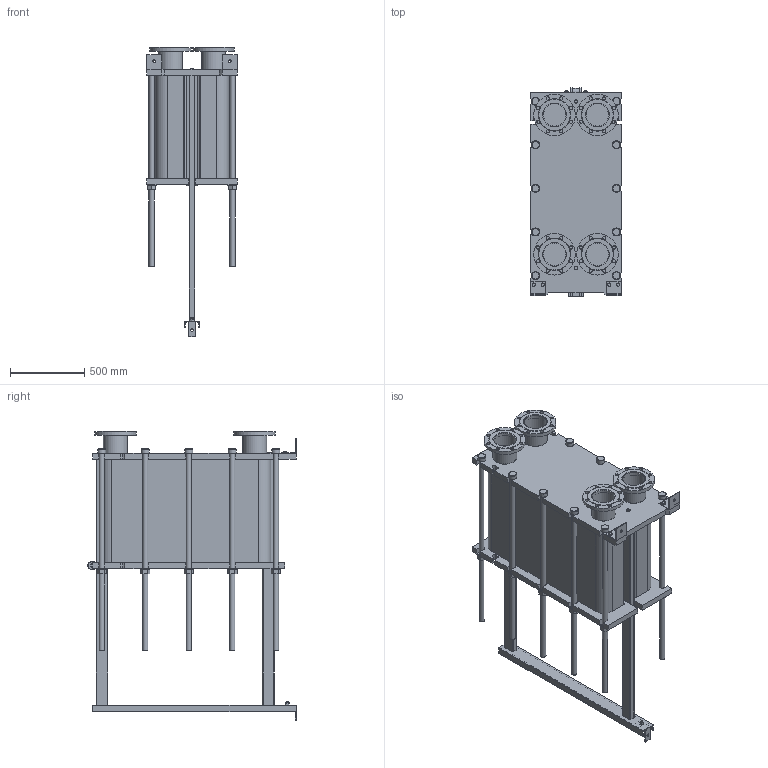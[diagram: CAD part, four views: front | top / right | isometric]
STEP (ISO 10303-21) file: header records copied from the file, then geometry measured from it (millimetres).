
FILE_DESCRIPTION(/* description */ (''),/* implementation_level */ '2;1');
FILE_NAME(/* name */ 'C:\Users\zhuro\Desktop\ENCO\TO\ЭН-041\ЭН-0,5-041-202-1.stp',/* time_stamp */ '2022-06-06T11:06:24+03:00',/* author */ ('zhuro'),/* organization */ (''),/* preprocessor_version */ 'ST-DEVELOPER v18.1',/* originating_system */ 'Autodesk Inventor 2022',/* authorisation */ '');
FILE_SCHEMA (('AUTOMOTIVE_DESIGN { 1 0 10303 214 3 1 1 }'));
Length unit declared in the file: millimetre
Products named in the file (1): ЭН-0,5-041-202-1
Bounding box: 610 x 1406.5 x 1955 mm (x, y, z)
Volume: 479603492.5 mm3; surface area: 11273527.5 mm2
Topology: 52 solids, 52 shells, 711 faces, 1696 edges, 1094 vertices
Faces by surface type: plane 487, cylinder 177, cone 41, torus 6
Full cylindrical faces by diameter (mm): 8 x4, 10 x2, 16 x8, 18 x3, 22 x32, 36 x24, 50 x1, 54 x10, 60 x12, 151 x4, 161 x8, 280 x4
Entity records: 22667 total; most frequent: CARTESIAN_POINT 5230, DIRECTION 3644, ORIENTED_EDGE 3392, EDGE_CURVE 1696, AXIS2_PLACEMENT_3D 1272, LINE 1100, VECTOR 1100, VERTEX_POINT 1094
